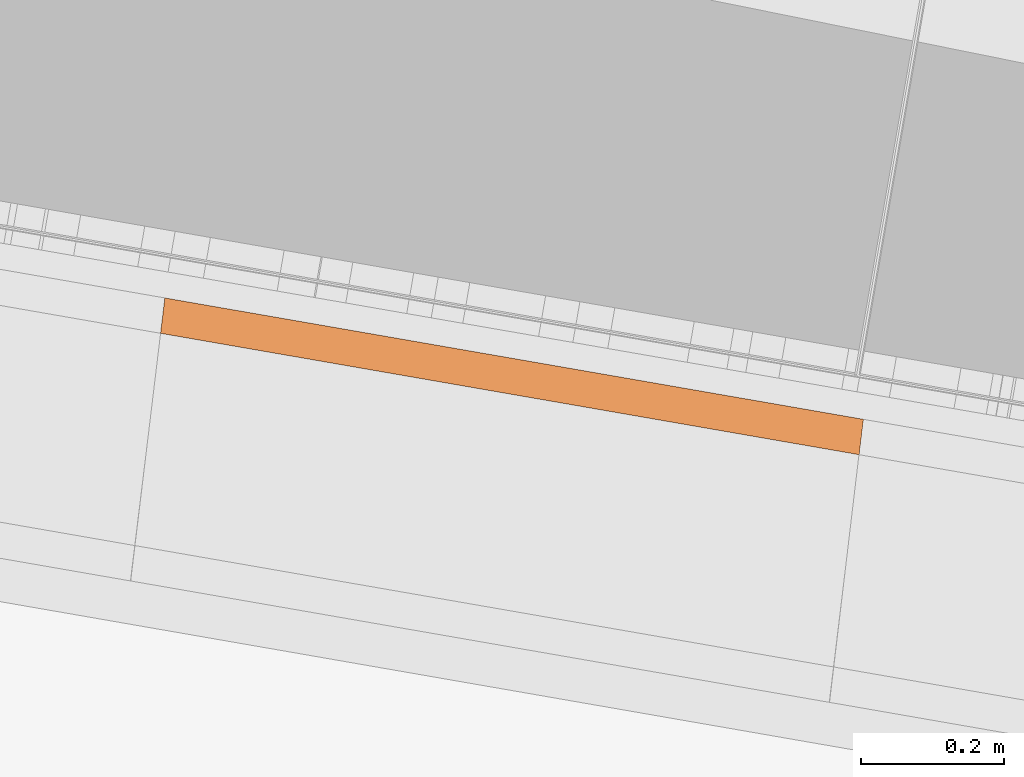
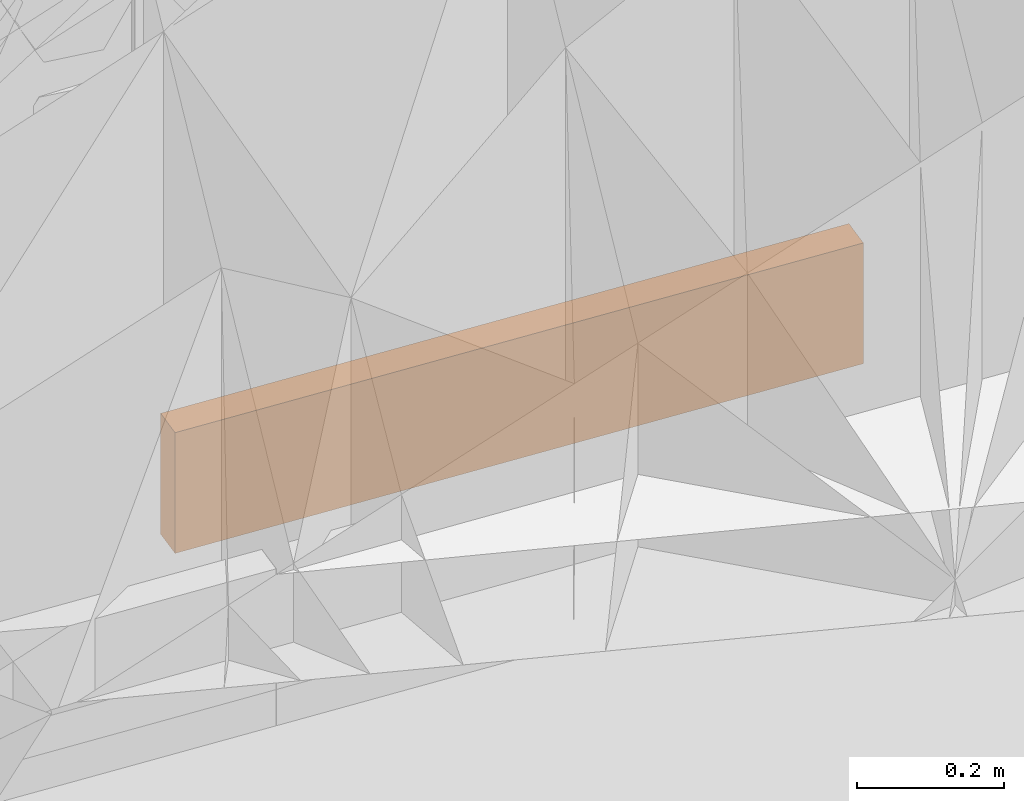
# Not in any storey, part 34 of 46: 1 proxy.
"""IFC4 model written with IfcOpenShell, lengths in metres."""

from ifc_helpers import new_model, si_unit, direction, frame, origin_with_axes, place, context, subcontext, project, spatial, polygons, material, element, save


model = new_model("IFC4")

# Units and contexts
model_context = context("Model", 3, precision=1e-05, world=origin_with_axes(), true_north=direction((0.0, 1.0)))
body_context = subcontext(model_context, "Body", "Model", "MODEL_VIEW")
ifc_project = project(units=[si_unit("VOLUMEUNIT", "CUBIC_METRE"), si_unit("LENGTHUNIT", "METRE"), si_unit("AREAUNIT", "SQUARE_METRE")], contexts=[model_context])

# Site
site_placement = place(None, origin_with_axes())
site = spatial("IfcSite", under=ifc_project, at=site_placement, Name="Lares · Rua das Mercês · artigo 4771")

# Proxy
ifc_material = material(Name="Caleiras · betão", Category="concrete")
proxy_placement = place(site_placement, frame((0.0, 0.0, 0.0), z_axis=(0.0, 0.0, 1.0), x_axis=(1.0, -1.03767253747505e-17, 0.0)))
element("IfcBuildingElementProxy", 1, at=proxy_placement, inside=site, material=ifc_material, Name="Acesso · canal lateral", ObjectType="Acesso · canal lateral", PredefinedType="USERDEFINED", context=body_context, shape_type="Tessellation", body=[
    polygons([(67.5721515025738, 8.70755539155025, 14.7368706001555), (67.5781428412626, 8.75719513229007, 14.7368706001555), (68.5584045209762, 8.58688288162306, 14.8113286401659), (68.5524131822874, 8.53724314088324, 14.8113286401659), (67.5721515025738, 8.70755539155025, 14.9368706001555), (67.5781428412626, 8.75719513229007, 14.9368706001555), (68.5584045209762, 8.58688288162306, 15.0113286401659), (68.5524131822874, 8.53724314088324, 15.0113286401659)], [[[4, 3, 2, 1]], [[5, 6, 7, 8]], [[1, 2, 6, 5]], [[2, 3, 7, 6]], [[3, 4, 8, 7]], [[4, 1, 5, 8]]]),
])

save(model, "model.ifc")
